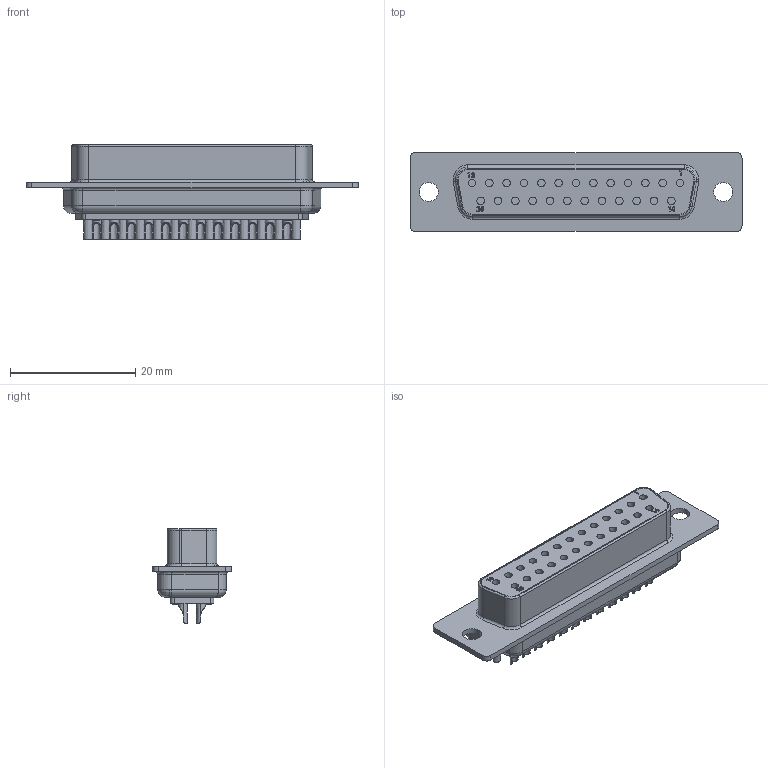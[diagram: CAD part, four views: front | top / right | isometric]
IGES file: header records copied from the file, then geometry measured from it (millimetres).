
Global section: file name: Filename.iges; native system: Open CASCADE 7.3; preprocessor: Open CASCADE IGES processor 7.3; date: 20201223.080450; units: millimetre
Bounding box: 53.01 x 12.6 x 15.27 mm (x, y, z)
Surface area: 4593.1 mm2 (no closed solid volume)
Topology: 0 solids, 0 shells, 702 faces, 3428 edges, 3428 vertices
Faces by surface type: revolution 340, plane 308, bspline 54
